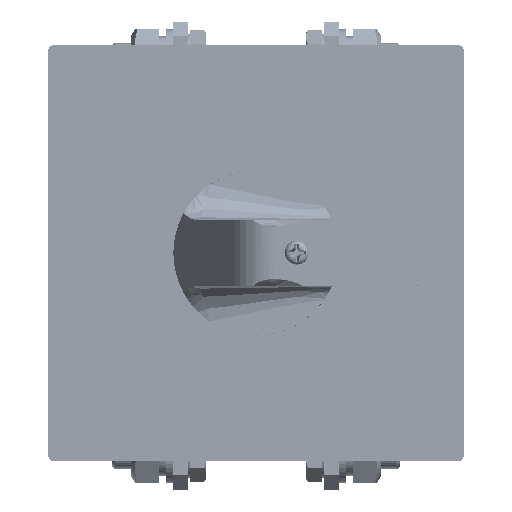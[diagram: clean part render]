
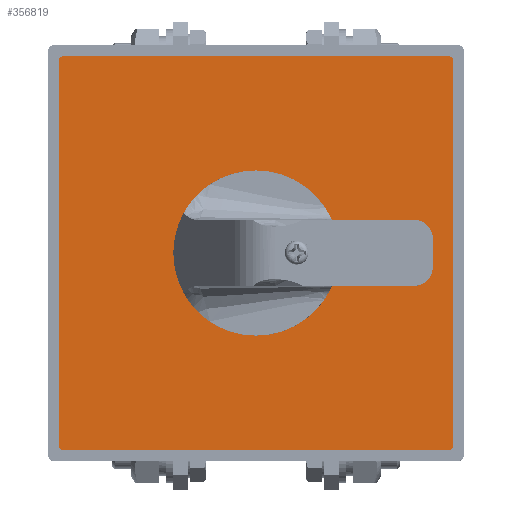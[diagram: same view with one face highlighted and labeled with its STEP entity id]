
A CAD part, top view. The second image highlights one B-rep face of the part: STEP entity #356819.
In plain terms, the highlighted planar face has unit normal (0, 0, 1).
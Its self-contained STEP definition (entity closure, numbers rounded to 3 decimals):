
#7604 = CARTESIAN_POINT ( 'NONE',  ( 40.75, -40.75, 422.125 ) ) ;
#8923 = VECTOR ( 'NONE', #391589, 1000. ) ;
#14135 = AXIS2_PLACEMENT_3D ( 'NONE', #342547, #132606, #65286 ) ;
#21075 = VERTEX_POINT ( 'NONE', #371899 ) ;
#22016 = CARTESIAN_POINT ( 'NONE',  ( -41.75, 40.75, 422.125 ) ) ;
#24487 = CIRCLE ( 'NONE', #14135, 1. ) ;
#25079 = EDGE_CURVE ( 'NONE', #32910, #21075, #346148, .T. ) ;
#32910 = VERTEX_POINT ( 'NONE', #247762 ) ;
#42180 = CIRCLE ( 'NONE', #129143, 12.5 ) ;
#48389 = EDGE_LOOP ( 'NONE', ( #57432, #130334 ) ) ;
#54106 = CARTESIAN_POINT ( 'NONE',  ( -12.5, 0., 422.125 ) ) ;
#57432 = ORIENTED_EDGE ( 'NONE', *, *, #137768, .F. ) ;
#61061 = AXIS2_PLACEMENT_3D ( 'NONE', #112587, #219886, #251977 ) ;
#64495 = VERTEX_POINT ( 'NONE', #217380 ) ;
#65286 = DIRECTION ( 'NONE',  ( -1., 0., 0. ) ) ;
#65781 = VECTOR ( 'NONE', #331423, 1000. ) ;
#66646 = EDGE_CURVE ( 'NONE', #356599, #249338, #424270, .T. ) ;
#69873 = ORIENTED_EDGE ( 'NONE', *, *, #97029, .T. ) ;
#72239 = EDGE_CURVE ( 'NONE', #249338, #64495, #311758, .T. ) ;
#73115 = CARTESIAN_POINT ( 'NONE',  ( -40.75, -41.75, 422.125 ) ) ;
#79638 = DIRECTION ( 'NONE',  ( 0., 0., 1. ) ) ;
#79923 = ORIENTED_EDGE ( 'NONE', *, *, #72239, .T. ) ;
#87278 = CARTESIAN_POINT ( 'NONE',  ( -40.75, 41.75, 422.125 ) ) ;
#97029 = EDGE_CURVE ( 'NONE', #21075, #136755, #405274, .T. ) ;
#98983 = DIRECTION ( 'NONE',  ( 1., 0., 0. ) ) ;
#100162 = CARTESIAN_POINT ( 'NONE',  ( -40.75, 40.75, 422.125 ) ) ;
#112587 = CARTESIAN_POINT ( 'NONE',  ( 0., 0., 422.125 ) ) ;
#117842 = DIRECTION ( 'NONE',  ( 1., 0., 0. ) ) ;
#127359 = DIRECTION ( 'NONE',  ( 1., 0., 0. ) ) ;
#129143 = AXIS2_PLACEMENT_3D ( 'NONE', #295426, #290918, #117842 ) ;
#130334 = ORIENTED_EDGE ( 'NONE', *, *, #399961, .F. ) ;
#132606 = DIRECTION ( 'NONE',  ( 0., 0., 1. ) ) ;
#136755 = VERTEX_POINT ( 'NONE', #346550 ) ;
#137645 = EDGE_CURVE ( 'NONE', #64495, #32910, #24487, .T. ) ;
#137768 = EDGE_CURVE ( 'NONE', #437425, #305156, #440570, .T. ) ;
#155939 = CARTESIAN_POINT ( 'NONE',  ( -40.75, 41.75, 422.125 ) ) ;
#161188 = DIRECTION ( 'NONE',  ( 0., 0., 1. ) ) ;
#162677 = CARTESIAN_POINT ( 'NONE',  ( 40.75, 40.75, 422.125 ) ) ;
#165878 = EDGE_LOOP ( 'NONE', ( #176487, #328926, #201091, #79923, #405923, #338889, #69873, #274354 ) ) ;
#165991 = EDGE_CURVE ( 'NONE', #344273, #356599, #386462, .T. ) ;
#168133 = VERTEX_POINT ( 'NONE', #371880 ) ;
#176487 = ORIENTED_EDGE ( 'NONE', *, *, #275308, .T. ) ;
#181825 = VECTOR ( 'NONE', #321115, 1000. ) ;
#190812 = CARTESIAN_POINT ( 'NONE',  ( 12.5, 0., 422.125 ) ) ;
#201091 = ORIENTED_EDGE ( 'NONE', *, *, #66646, .T. ) ;
#204679 = CARTESIAN_POINT ( 'NONE',  ( -41.75, 40.75, 422.125 ) ) ;
#207517 = DIRECTION ( 'NONE',  ( -1., 0., 0. ) ) ;
#217380 = CARTESIAN_POINT ( 'NONE',  ( -41.75, -40.75, 422.125 ) ) ;
#219886 = DIRECTION ( 'NONE',  ( 0., 0., 1. ) ) ;
#247762 = CARTESIAN_POINT ( 'NONE',  ( -40.75, -41.75, 422.125 ) ) ;
#249338 = VERTEX_POINT ( 'NONE', #204679 ) ;
#251977 = DIRECTION ( 'NONE',  ( 1., 0., 0. ) ) ;
#253787 = CARTESIAN_POINT ( 'NONE',  ( 41.75, 40.75, 422.125 ) ) ;
#254848 = AXIS2_PLACEMENT_3D ( 'NONE', #100162, #348313, #207517 ) ;
#274354 = ORIENTED_EDGE ( 'NONE', *, *, #395712, .T. ) ;
#275053 = FACE_BOUND ( 'NONE', #48389, .T. ) ;
#275308 = EDGE_CURVE ( 'NONE', #168133, #344273, #306273, .T. ) ;
#279688 = PLANE ( 'NONE',  #329061 ) ;
#283109 = CARTESIAN_POINT ( 'NONE',  ( 40.75, 41.75, 422.125 ) ) ;
#290918 = DIRECTION ( 'NONE',  ( 0., 0., 1. ) ) ;
#295426 = CARTESIAN_POINT ( 'NONE',  ( 0., 0., 422.125 ) ) ;
#299420 = LINE ( 'NONE', #253787, #8923 ) ;
#305156 = VERTEX_POINT ( 'NONE', #190812 ) ;
#305424 = AXIS2_PLACEMENT_3D ( 'NONE', #7604, #79638, #430470 ) ;
#306273 = CIRCLE ( 'NONE', #380836, 1. ) ;
#311758 = LINE ( 'NONE', #22016, #65781 ) ;
#313304 = CARTESIAN_POINT ( 'NONE',  ( 40.75, 40.75, 422.125 ) ) ;
#321115 = DIRECTION ( 'NONE',  ( 1., 0., 0. ) ) ;
#326278 = VECTOR ( 'NONE', #342891, 1000. ) ;
#328926 = ORIENTED_EDGE ( 'NONE', *, *, #165991, .T. ) ;
#329061 = AXIS2_PLACEMENT_3D ( 'NONE', #313304, #342574, #98983 ) ;
#331423 = DIRECTION ( 'NONE',  ( 0., -1., 0. ) ) ;
#338889 = ORIENTED_EDGE ( 'NONE', *, *, #25079, .T. ) ;
#342547 = CARTESIAN_POINT ( 'NONE',  ( -40.75, -40.75, 422.125 ) ) ;
#342574 = DIRECTION ( 'NONE',  ( 0., 0., 1. ) ) ;
#342891 = DIRECTION ( 'NONE',  ( -1., 0., 0. ) ) ;
#344273 = VERTEX_POINT ( 'NONE', #283109 ) ;
#346148 = LINE ( 'NONE', #73115, #181825 ) ;
#346550 = CARTESIAN_POINT ( 'NONE',  ( 41.75, -40.75, 422.125 ) ) ;
#348313 = DIRECTION ( 'NONE',  ( 0., 0., 1. ) ) ;
#356599 = VERTEX_POINT ( 'NONE', #155939 ) ;
#356819 = ADVANCED_FACE ( 'NONE', ( #368266, #275053 ), #279688, .T. ) ;
#368266 = FACE_OUTER_BOUND ( 'NONE', #165878, .T. ) ;
#371880 = CARTESIAN_POINT ( 'NONE',  ( 41.75, 40.75, 422.125 ) ) ;
#371899 = CARTESIAN_POINT ( 'NONE',  ( 40.75, -41.75, 422.125 ) ) ;
#380836 = AXIS2_PLACEMENT_3D ( 'NONE', #162677, #161188, #127359 ) ;
#386462 = LINE ( 'NONE', #87278, #326278 ) ;
#391589 = DIRECTION ( 'NONE',  ( 0., 1., 0. ) ) ;
#395712 = EDGE_CURVE ( 'NONE', #136755, #168133, #299420, .T. ) ;
#399961 = EDGE_CURVE ( 'NONE', #305156, #437425, #42180, .T. ) ;
#405274 = CIRCLE ( 'NONE', #305424, 1. ) ;
#405923 = ORIENTED_EDGE ( 'NONE', *, *, #137645, .T. ) ;
#424270 = CIRCLE ( 'NONE', #254848, 1. ) ;
#430470 = DIRECTION ( 'NONE',  ( -1., 0., 0. ) ) ;
#437425 = VERTEX_POINT ( 'NONE', #54106 ) ;
#440570 = CIRCLE ( 'NONE', #61061, 12.5 ) ;
